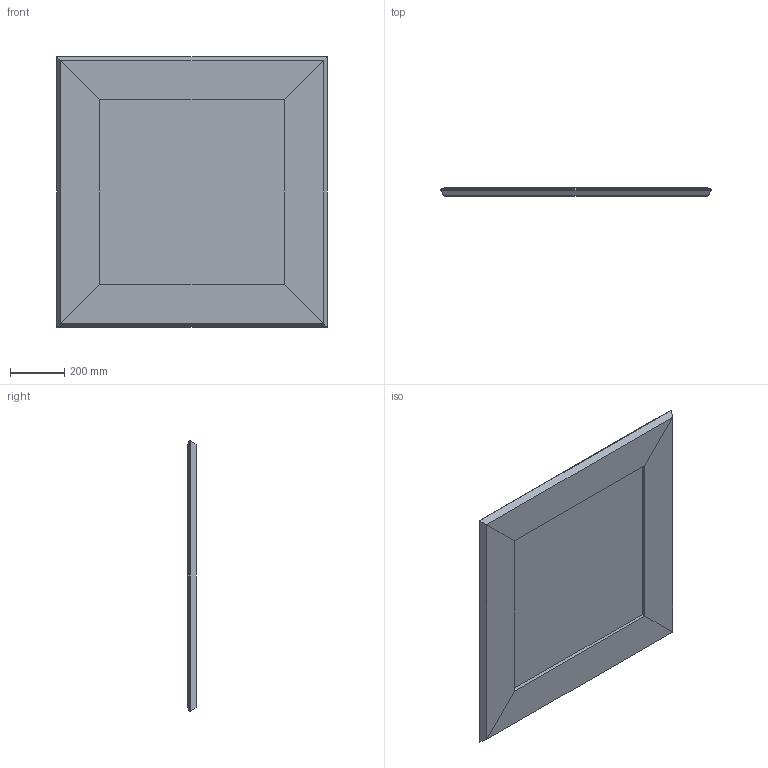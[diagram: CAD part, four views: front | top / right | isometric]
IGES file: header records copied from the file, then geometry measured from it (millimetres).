
Start section: SolidWorks IGES file using analytic representation for surfaces
Global section: file name: Y:\eforma\TECNICO\SOLIDWORKS\E-FORMA\4-SPECCHI\PRISMA\02 parts\PRI01_Prisma_100x100.IGS; native system: SolidWorks 2022; preprocessor: SolidWorks 2022; author: eforma.tech; date: 240806.094538; units: millimetre
Bounding box: 1000 x 30 x 1000 mm (x, y, z)
Volume: 19474702.8 mm3; surface area: 2411253.6 mm2
Topology: 5 solids, 5 shells, 166 faces, 424 edges, 272 vertices
Faces by surface type: plane 98, revolution 68
